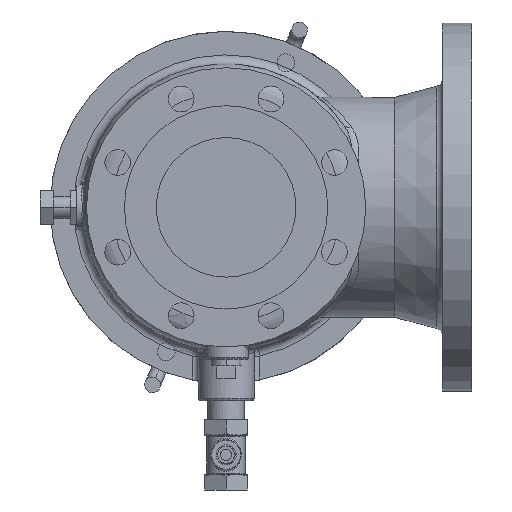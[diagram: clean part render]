
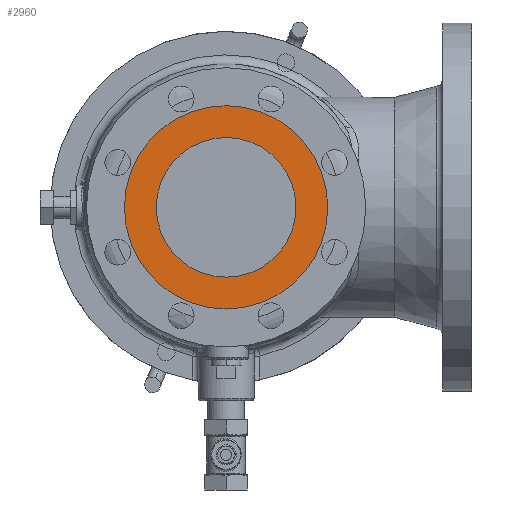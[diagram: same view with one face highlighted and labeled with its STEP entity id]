
A CAD part, front view. The second image highlights one B-rep face of the part: STEP entity #2960.
In plain terms, the highlighted planar face has unit normal (0, -1, 0).
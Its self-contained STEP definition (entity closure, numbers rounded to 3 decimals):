
#1018 = CARTESIAN_POINT ( 'NONE',  ( 0., -210., 0. ) ) ;
#1702 = CIRCLE ( 'NONE', #13346, 62.5 ) ;
#1735 = EDGE_CURVE ( 'NONE', #9768, #3739, #1702, .T. ) ;
#1866 = CARTESIAN_POINT ( 'NONE',  ( 0., -210., 0. ) ) ;
#1909 = CARTESIAN_POINT ( 'NONE',  ( -91., -210., 0. ) ) ;
#2960 = ADVANCED_FACE ( 'NONE', ( #15342, #3175 ), #14014, .T. ) ;
#3107 = EDGE_CURVE ( 'NONE', #14469, #9855, #16100, .T. ) ;
#3175 = FACE_OUTER_BOUND ( 'NONE', #14738, .T. ) ;
#3438 = CARTESIAN_POINT ( 'NONE',  ( 0., -210., 0. ) ) ;
#3700 = DIRECTION ( 'NONE',  ( -1., 0., 0. ) ) ;
#3739 = VERTEX_POINT ( 'NONE', #5566 ) ;
#3758 = CIRCLE ( 'NONE', #12816, 91. ) ;
#5340 = DIRECTION ( 'NONE',  ( 1., 0., 0. ) ) ;
#5531 = CARTESIAN_POINT ( 'NONE',  ( 62.5, -210., 0. ) ) ;
#5566 = CARTESIAN_POINT ( 'NONE',  ( -62.5, -210., 0. ) ) ;
#6014 = DIRECTION ( 'NONE',  ( 0., -1., 0. ) ) ;
#6444 = DIRECTION ( 'NONE',  ( -1., 0., 0. ) ) ;
#6514 = ORIENTED_EDGE ( 'NONE', *, *, #1735, .F. ) ;
#8172 = CARTESIAN_POINT ( 'NONE',  ( -91., -210., 0. ) ) ;
#8431 = AXIS2_PLACEMENT_3D ( 'NONE', #1018, #13283, #6444 ) ;
#9117 = EDGE_CURVE ( 'NONE', #3739, #9768, #12697, .T. ) ;
#9768 = VERTEX_POINT ( 'NONE', #5531 ) ;
#9855 = VERTEX_POINT ( 'NONE', #8172 ) ;
#10438 = ORIENTED_EDGE ( 'NONE', *, *, #10439, .F. ) ;
#10439 = EDGE_CURVE ( 'NONE', #9855, #14469, #3758, .T. ) ;
#11443 = DIRECTION ( 'NONE',  ( 1., 0., 0. ) ) ;
#12252 = DIRECTION ( 'NONE',  ( 0., -1., 0. ) ) ;
#12550 = DIRECTION ( 'NONE',  ( 1., 0., 0. ) ) ;
#12697 = CIRCLE ( 'NONE', #16957, 62.5 ) ;
#12816 = AXIS2_PLACEMENT_3D ( 'NONE', #3438, #15873, #3700 ) ;
#13283 = DIRECTION ( 'NONE',  ( 0., 1., 0. ) ) ;
#13346 = AXIS2_PLACEMENT_3D ( 'NONE', #14921, #12252, #5340 ) ;
#13801 = DIRECTION ( 'NONE',  ( 0., -1., 0. ) ) ;
#14014 = PLANE ( 'NONE',  #15243 ) ;
#14133 = ORIENTED_EDGE ( 'NONE', *, *, #3107, .F. ) ;
#14271 = ORIENTED_EDGE ( 'NONE', *, *, #9117, .F. ) ;
#14378 = EDGE_LOOP ( 'NONE', ( #6514, #14271 ) ) ;
#14469 = VERTEX_POINT ( 'NONE', #16763 ) ;
#14738 = EDGE_LOOP ( 'NONE', ( #10438, #14133 ) ) ;
#14921 = CARTESIAN_POINT ( 'NONE',  ( 0., -210., 0. ) ) ;
#15243 = AXIS2_PLACEMENT_3D ( 'NONE', #1909, #6014, #11443 ) ;
#15342 = FACE_BOUND ( 'NONE', #14378, .T. ) ;
#15873 = DIRECTION ( 'NONE',  ( 0., 1., 0. ) ) ;
#16100 = CIRCLE ( 'NONE', #8431, 91. ) ;
#16763 = CARTESIAN_POINT ( 'NONE',  ( 91., -210., 0. ) ) ;
#16957 = AXIS2_PLACEMENT_3D ( 'NONE', #1866, #13801, #12550 ) ;
